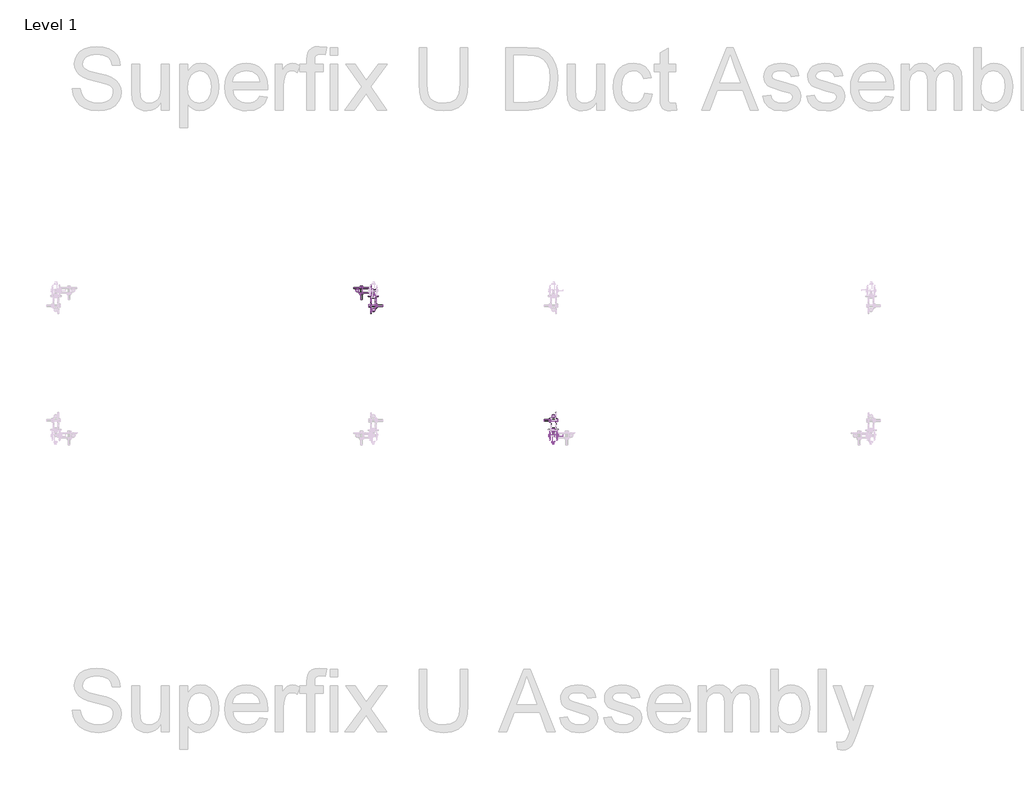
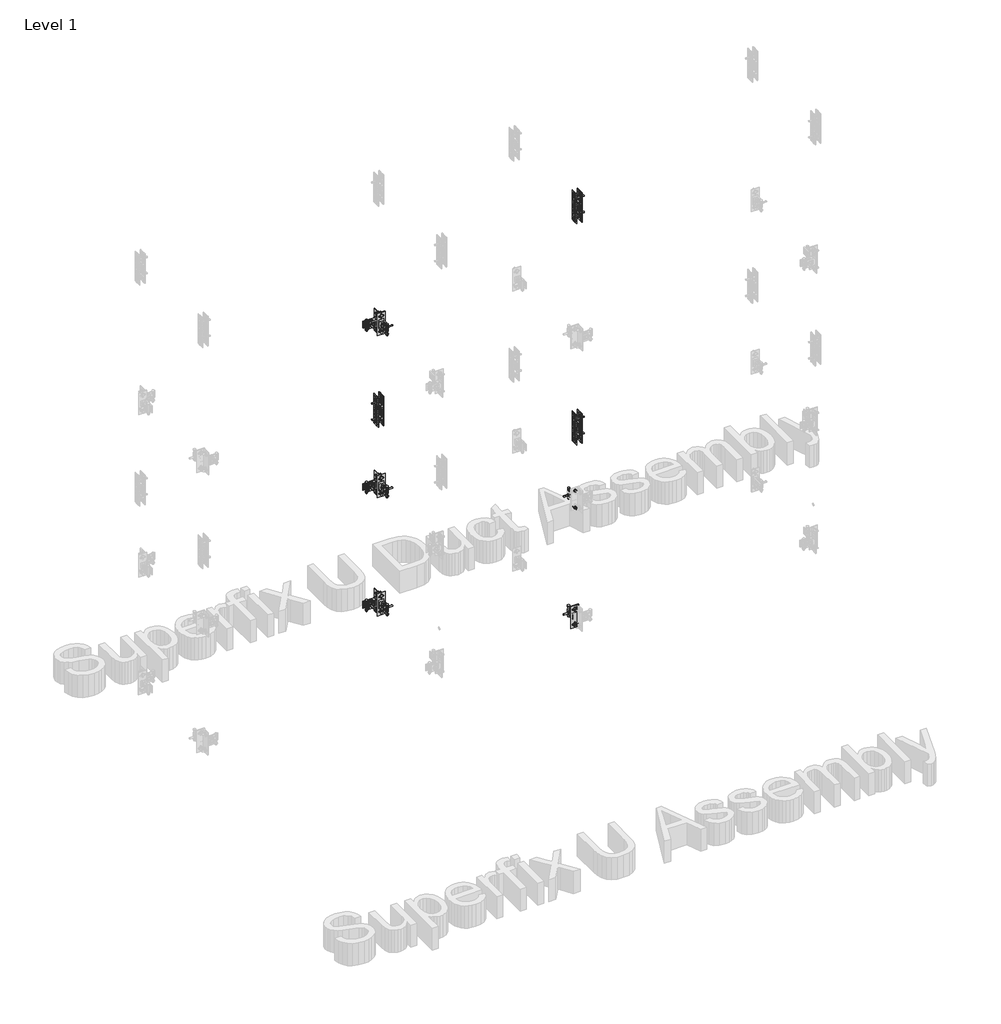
# One storey, part 11 of 32: 144 valves.
"""IFC4 building model written with IfcOpenShell, lengths in millimetres."""

from ifc_helpers import new_model, si_unit, origin, place, context, project, spatial, transform, mapped, element, save
from components import valve_fad8a5b8, hexagon_nut_galvanized_extra_m8_53389388, superfix_hexagon_screw_galvanized_f0d66714, superfix_hexagon_screw_galvanized_68d17cb7, superfix_hexagon_screw_galvanized_e39b877e, superfix_hexagon_screw_galvanized_3ef5af78, superfix_hexagon_screw_galvanized_3d7df342, superfix_strap_981cfdac, superfix_u_658711f6, superfix_u_31397e19, superfix_u_bracket_h_0b8578fe

model = new_model("IFC4")

# Units and contexts
model_context = context("Model", 3, world=origin())
ifc_project = project(units=[si_unit("LENGTHUNIT", "METRE", prefix="MILLI")], contexts=[model_context])

# Site, building, storey
site = spatial("IfcSite", under=ifc_project)
building = spatial("IfcBuilding", under=site)
storey = spatial("IfcBuildingStorey", under=building, Name="Level 1", Elevation=0.0)

# Valves
placement = place(None, origin())
valve_shape = valve_fad8a5b8(model_context)
element("IfcValve", 1, ObjectType="Superfix Flat Washer : Superfix Flat Washer M8x15x1.5", at=placement, inside=storey, context=model_context, shape_type="MappedRepresentation", body=[
    mapped(valve_shape, transform((-21166.450626, 29465.46055, 1500.0), x_axis=(1.0, 0.0, 0.0), y_axis=(0.0, 0.0, 1.0), z_axis=(0.0, -1.0, 0.0))),
])
element("IfcValve", 2, ObjectType="Superfix Flat Washer : Superfix Flat Washer M8x15x1.5", at=placement, inside=storey, context=model_context, shape_type="MappedRepresentation", body=[
    mapped(valve_shape, transform((-21115.450626, 29477.96055, 1558.0), x_axis=(0.0, 0.0, 1.0), y_axis=(0.0, 1.0, 0.0), z_axis=(-1.0, 0.0, 0.0))),
])
element("IfcValve", 3, ObjectType="Superfix Flat Washer : Superfix Flat Washer M8x15x1.5", at=placement, inside=storey, context=model_context, shape_type="MappedRepresentation", body=[
    mapped(valve_shape, transform((-21115.450626, 29477.96055, 1442.0), x_axis=(0.0, 0.0, 1.0), y_axis=(0.0, 1.0, 0.0), z_axis=(-1.0, 0.0, 0.0))),
])
element("IfcValve", 4, ObjectType="Superfix Flat Washer : Superfix Flat Washer M8x15x1.5", at=placement, inside=storey, context=model_context, shape_type="MappedRepresentation", body=[
    mapped(valve_shape, transform((-21186.450626, 29477.96055, 1471.5), x_axis=(1.0, 0.0, 0.0), y_axis=(0.0, -1.0, 0.0), z_axis=(0.0, 0.0, -1.0))),
])
element("IfcValve", 5, ObjectType="Superfix Flat Washer : Superfix Flat Washer M8x15x1.5", at=placement, inside=storey, context=model_context, shape_type="MappedRepresentation", body=[
    mapped(valve_shape, transform((-21166.450626, 29465.46055, 700.0), x_axis=(1.0, 0.0, 0.0), y_axis=(0.0, 0.0, 1.0), z_axis=(0.0, -1.0, 0.0))),
])
element("IfcValve", 6, ObjectType="Superfix Flat Washer : Superfix Flat Washer M8x15x1.5", at=placement, inside=storey, context=model_context, shape_type="MappedRepresentation", body=[
    mapped(valve_shape, transform((-21115.450626, 29477.96055, 758.0), x_axis=(0.0, 0.0, 1.0), y_axis=(0.0, 1.0, 0.0), z_axis=(-1.0, 0.0, 0.0))),
])
element("IfcValve", 7, ObjectType="Superfix Flat Washer : Superfix Flat Washer M8x15x1.5", at=placement, inside=storey, context=model_context, shape_type="MappedRepresentation", body=[
    mapped(valve_shape, transform((-21115.450626, 29477.96055, 642.0), x_axis=(0.0, 0.0, 1.0), y_axis=(0.0, 1.0, 0.0), z_axis=(-1.0, 0.0, 0.0))),
])
element("IfcValve", 8, ObjectType="Superfix Flat Washer : Superfix Flat Washer M8x15x1.5", at=placement, inside=storey, context=model_context, shape_type="MappedRepresentation", body=[
    mapped(valve_shape, transform((-21186.450626, 29477.96055, 671.5), x_axis=(1.0, 0.0, 0.0), y_axis=(0.0, -1.0, 0.0), z_axis=(0.0, 0.0, -1.0))),
])
element("IfcValve", 9, ObjectType="Superfix Flat Washer : Superfix Flat Washer M8x15x1.5", at=placement, inside=storey, context=model_context, shape_type="MappedRepresentation", body=[
    mapped(valve_shape, transform((-21166.450626, 29465.46055, 2600.0), x_axis=(1.0, 0.0, 0.0), y_axis=(0.0, 0.0, 1.0), z_axis=(0.0, -1.0, 0.0))),
])
element("IfcValve", 10, ObjectType="Superfix Flat Washer : Superfix Flat Washer M8x15x1.5", at=placement, inside=storey, context=model_context, shape_type="MappedRepresentation", body=[
    mapped(valve_shape, transform((-21115.450626, 29477.96055, 2658.0), x_axis=(0.0, 0.0, 1.0), y_axis=(0.0, 1.0, 0.0), z_axis=(-1.0, 0.0, 0.0))),
])
element("IfcValve", 11, ObjectType="Superfix Flat Washer : Superfix Flat Washer M8x15x1.5", at=placement, inside=storey, context=model_context, shape_type="MappedRepresentation", body=[
    mapped(valve_shape, transform((-21115.450626, 29477.96055, 2542.0), x_axis=(0.0, 0.0, 1.0), y_axis=(0.0, 1.0, 0.0), z_axis=(-1.0, 0.0, 0.0))),
])
element("IfcValve", 12, ObjectType="Superfix Flat Washer : Superfix Flat Washer M8x15x1.5", at=placement, inside=storey, context=model_context, shape_type="MappedRepresentation", body=[
    mapped(valve_shape, transform((-21186.450626, 29477.96055, 2571.5), x_axis=(1.0, 0.0, 0.0), y_axis=(0.0, -1.0, 0.0), z_axis=(0.0, 0.0, -1.0))),
])
element("IfcValve", 13, ObjectType="Superfix Flat Washer : Superfix Flat Washer M8x15x1.5", at=placement, inside=storey, context=model_context, shape_type="MappedRepresentation", body=[
    mapped(valve_shape, transform((-21095.950626, 29404.96055, 2600.0), x_axis=(0.0, 1.0, 0.0), y_axis=(0.0, 0.0, 1.0), z_axis=(1.0, 0.0, 0.0))),
])
element("IfcValve", 14, ObjectType="Superfix Flat Washer : Superfix Flat Washer M8x15x1.5", at=placement, inside=storey, context=model_context, shape_type="MappedRepresentation", body=[
    mapped(valve_shape, transform((-21108.450626, 29455.96055, 2658.0), x_axis=(0.0, 0.0, 1.0), y_axis=(-1.0, 0.0, 0.0), z_axis=(0.0, -1.0, 0.0))),
])
element("IfcValve", 15, ObjectType="Superfix Flat Washer : Superfix Flat Washer M8x15x1.5", at=placement, inside=storey, context=model_context, shape_type="MappedRepresentation", body=[
    mapped(valve_shape, transform((-21108.450626, 29455.96055, 2542.0), x_axis=(0.0, 0.0, 1.0), y_axis=(-1.0, 0.0, 0.0), z_axis=(0.0, -1.0, 0.0))),
])
element("IfcValve", 16, ObjectType="Superfix Flat Washer : Superfix Flat Washer M8x15x1.5", at=placement, inside=storey, context=model_context, shape_type="MappedRepresentation", body=[
    mapped(valve_shape, transform((-21108.450626, 29384.96055, 2571.5), x_axis=(0.0, 1.0, 0.0), y_axis=(1.0, 0.0, 0.0), z_axis=(0.0, 0.0, -1.0))),
])
element("IfcValve", 17, ObjectType="Superfix Flat Washer : Superfix Flat Washer M8x15x1.5", at=placement, inside=storey, context=model_context, shape_type="MappedRepresentation", body=[
    mapped(valve_shape, transform((-21095.950626, 29404.96055, 1500.0), x_axis=(0.0, 1.0, 0.0), y_axis=(0.0, 0.0, 1.0), z_axis=(1.0, 0.0, 0.0))),
])
element("IfcValve", 18, ObjectType="Superfix Flat Washer : Superfix Flat Washer M8x15x1.5", at=placement, inside=storey, context=model_context, shape_type="MappedRepresentation", body=[
    mapped(valve_shape, transform((-21108.450626, 29455.96055, 1558.0), x_axis=(0.0, 0.0, 1.0), y_axis=(-1.0, 0.0, 0.0), z_axis=(0.0, -1.0, 0.0))),
])
element("IfcValve", 19, ObjectType="Superfix Flat Washer : Superfix Flat Washer M8x15x1.5", at=placement, inside=storey, context=model_context, shape_type="MappedRepresentation", body=[
    mapped(valve_shape, transform((-21108.450626, 29455.96055, 1442.0), x_axis=(0.0, 0.0, 1.0), y_axis=(-1.0, 0.0, 0.0), z_axis=(0.0, -1.0, 0.0))),
])
element("IfcValve", 20, ObjectType="Superfix Flat Washer : Superfix Flat Washer M8x15x1.5", at=placement, inside=storey, context=model_context, shape_type="MappedRepresentation", body=[
    mapped(valve_shape, transform((-21108.450626, 29384.96055, 1471.5), x_axis=(0.0, 1.0, 0.0), y_axis=(1.0, 0.0, 0.0), z_axis=(0.0, 0.0, -1.0))),
])
element("IfcValve", 21, ObjectType="Superfix Flat Washer : Superfix Flat Washer M8x15x1.5", at=placement, inside=storey, context=model_context, shape_type="MappedRepresentation", body=[
    mapped(valve_shape, transform((-21095.950626, 29403.96055, 700.0), x_axis=(0.0, 1.0, 0.0), y_axis=(0.0, 0.0, 1.0), z_axis=(1.0, 0.0, 0.0))),
])
element("IfcValve", 22, ObjectType="Superfix Flat Washer : Superfix Flat Washer M8x15x1.5", at=placement, inside=storey, context=model_context, shape_type="MappedRepresentation", body=[
    mapped(valve_shape, transform((-21108.450626, 29454.96055, 758.0), x_axis=(0.0, 0.0, 1.0), y_axis=(-1.0, 0.0, 0.0), z_axis=(0.0, -1.0, 0.0))),
])
element("IfcValve", 23, ObjectType="Superfix Flat Washer : Superfix Flat Washer M8x15x1.5", at=placement, inside=storey, context=model_context, shape_type="MappedRepresentation", body=[
    mapped(valve_shape, transform((-21108.450626, 29454.96055, 642.0), x_axis=(0.0, 0.0, 1.0), y_axis=(-1.0, 0.0, 0.0), z_axis=(0.0, -1.0, 0.0))),
])
element("IfcValve", 24, ObjectType="Superfix Flat Washer : Superfix Flat Washer M8x15x1.5", at=placement, inside=storey, context=model_context, shape_type="MappedRepresentation", body=[
    mapped(valve_shape, transform((-21108.450626, 29383.96055, 671.5), x_axis=(0.0, 1.0, 0.0), y_axis=(1.0, 0.0, 0.0), z_axis=(0.0, 0.0, -1.0))),
])
element("IfcValve", 25, ObjectType="Superfix Flat Washer : Superfix Flat Washer M8x15x1.5", at=placement, inside=storey, context=model_context, shape_type="MappedRepresentation", body=[
    mapped(valve_shape, transform((-20252.950626, 28850.96055, 1500.0), x_axis=(0.0, -1.0, 0.0), y_axis=(0.0, 0.0, 1.0), z_axis=(-1.0, 0.0, 0.0))),
])
element("IfcValve", 26, ObjectType="Superfix Flat Washer : Superfix Flat Washer M8x15x1.5", at=placement, inside=storey, context=model_context, shape_type="MappedRepresentation", body=[
    mapped(valve_shape, transform((-20240.450626, 28799.96055, 1558.0), x_axis=(0.0, 0.0, 1.0), y_axis=(1.0, 0.0, 0.0), z_axis=(0.0, 1.0, 0.0))),
])
element("IfcValve", 27, ObjectType="Superfix Flat Washer : Superfix Flat Washer M8x15x1.5", at=placement, inside=storey, context=model_context, shape_type="MappedRepresentation", body=[
    mapped(valve_shape, transform((-20240.450626, 28799.96055, 1442.0), x_axis=(0.0, 0.0, 1.0), y_axis=(1.0, 0.0, 0.0), z_axis=(0.0, 1.0, 0.0))),
])
element("IfcValve", 28, ObjectType="Superfix Flat Washer : Superfix Flat Washer M8x15x1.5", at=placement, inside=storey, context=model_context, shape_type="MappedRepresentation", body=[
    mapped(valve_shape, transform((-20240.450626, 28870.96055, 1471.5), x_axis=(0.0, -1.0, 0.0), y_axis=(-1.0, 0.0, 0.0), z_axis=(0.0, 0.0, -1.0))),
])
element("IfcValve", 29, ObjectType="Superfix Flat Washer : Superfix Flat Washer M8x15x1.5", at=placement, inside=storey, context=model_context, shape_type="MappedRepresentation", body=[
    mapped(valve_shape, transform((-20252.950626, 28851.96055, 700.0), x_axis=(0.0, -1.0, 0.0), y_axis=(0.0, 0.0, 1.0), z_axis=(-1.0, 0.0, 0.0))),
])
element("IfcValve", 30, ObjectType="Superfix Flat Washer : Superfix Flat Washer M8x15x1.5", at=placement, inside=storey, context=model_context, shape_type="MappedRepresentation", body=[
    mapped(valve_shape, transform((-20240.450626, 28800.96055, 758.0), x_axis=(0.0, 0.0, 1.0), y_axis=(1.0, 0.0, 0.0), z_axis=(0.0, 1.0, 0.0))),
])
element("IfcValve", 31, ObjectType="Superfix Flat Washer : Superfix Flat Washer M8x15x1.5", at=placement, inside=storey, context=model_context, shape_type="MappedRepresentation", body=[
    mapped(valve_shape, transform((-20240.450626, 28800.96055, 642.0), x_axis=(0.0, 0.0, 1.0), y_axis=(1.0, 0.0, 0.0), z_axis=(0.0, 1.0, 0.0))),
])
element("IfcValve", 32, ObjectType="Superfix Flat Washer : Superfix Flat Washer M8x15x1.5", at=placement, inside=storey, context=model_context, shape_type="MappedRepresentation", body=[
    mapped(valve_shape, transform((-20240.450626, 28871.96055, 671.5), x_axis=(0.0, -1.0, 0.0), y_axis=(-1.0, 0.0, 0.0), z_axis=(0.0, 0.0, -1.0))),
])
element("IfcValve", 33, ObjectType="Superfix Flat Washer : Superfix Flat Washer M8x15x1.5", at=placement, inside=storey, context=model_context, shape_type="MappedRepresentation", body=[
    mapped(valve_shape, transform((-21126.050626, 29477.96055, 2055.0), x_axis=(0.0, 1.0, 0.0), y_axis=(0.0, 0.0, 1.0), z_axis=(1.0, 0.0, 0.0))),
])
element("IfcValve", 34, ObjectType="Superfix Flat Washer : Superfix Flat Washer M8x15x1.5", at=placement, inside=storey, context=model_context, shape_type="MappedRepresentation", body=[
    mapped(valve_shape, transform((-21126.050626, 29477.96055, 1945.0), x_axis=(0.0, 1.0, 0.0), y_axis=(0.0, 0.0, 1.0), z_axis=(1.0, 0.0, 0.0))),
])
element("IfcValve", 35, ObjectType="Superfix Flat Washer : Superfix Flat Washer M8x15x1.5", at=placement, inside=storey, context=model_context, shape_type="MappedRepresentation", body=[
    mapped(valve_shape, transform((-20224.450626, 28777.96055, 1945.0), x_axis=(0.0, 1.0, 0.0), y_axis=(0.0, 0.0, 1.0), z_axis=(1.0, 0.0, 0.0))),
])
element("IfcValve", 36, ObjectType="Superfix Flat Washer : Superfix Flat Washer M8x15x1.5", at=placement, inside=storey, context=model_context, shape_type="MappedRepresentation", body=[
    mapped(valve_shape, transform((-20224.450626, 28777.96055, 2055.0), x_axis=(0.0, 1.0, 0.0), y_axis=(0.0, 0.0, 1.0), z_axis=(1.0, 0.0, 0.0))),
])
element("IfcValve", 37, ObjectType="Superfix Flat Washer : Superfix Flat Washer M8x15x1.5", at=placement, inside=storey, context=model_context, shape_type="MappedRepresentation", body=[
    mapped(valve_shape, transform((-20240.450626, 28749.46055, 2040.0), x_axis=(1.0, 0.0, 0.0), y_axis=(0.0, 0.0, 1.0), z_axis=(0.0, -1.0, 0.0))),
])
element("IfcValve", 38, ObjectType="Superfix Flat Washer : Superfix Flat Washer M8x15x1.5", at=placement, inside=storey, context=model_context, shape_type="MappedRepresentation", body=[
    mapped(valve_shape, transform((-20240.450626, 28749.46055, 1960.0), x_axis=(1.0, 0.0, 0.0), y_axis=(0.0, 0.0, 1.0), z_axis=(0.0, -1.0, 0.0))),
])
element("IfcValve", 39, ObjectType="Superfix Flat Washer : Superfix Flat Washer M8x15x1.5", at=placement, inside=storey, context=model_context, shape_type="MappedRepresentation", body=[
    mapped(valve_shape, transform((-20224.450626, 28777.96055, 3445.0), x_axis=(0.0, 1.0, 0.0), y_axis=(0.0, 0.0, 1.0), z_axis=(1.0, 0.0, 0.0))),
])
element("IfcValve", 40, ObjectType="Superfix Flat Washer : Superfix Flat Washer M8x15x1.5", at=placement, inside=storey, context=model_context, shape_type="MappedRepresentation", body=[
    mapped(valve_shape, transform((-20224.450626, 28777.96055, 3555.0), x_axis=(0.0, 1.0, 0.0), y_axis=(0.0, 0.0, 1.0), z_axis=(1.0, 0.0, 0.0))),
])
element("IfcValve", 41, ObjectType="Superfix Flat Washer : Superfix Flat Washer M8x15x1.5", at=placement, inside=storey, context=model_context, shape_type="MappedRepresentation", body=[
    mapped(valve_shape, transform((-20240.450626, 28749.46055, 3540.0), x_axis=(1.0, 0.0, 0.0), y_axis=(0.0, 0.0, 1.0), z_axis=(0.0, -1.0, 0.0))),
])
element("IfcValve", 42, ObjectType="Superfix Flat Washer : Superfix Flat Washer M8x15x1.5", at=placement, inside=storey, context=model_context, shape_type="MappedRepresentation", body=[
    mapped(valve_shape, transform((-20240.450626, 28749.46055, 3460.0), x_axis=(1.0, 0.0, 0.0), y_axis=(0.0, 0.0, 1.0), z_axis=(0.0, -1.0, 0.0))),
])
hexagon_nut_galvanized_extra_m8_shape = hexagon_nut_galvanized_extra_m8_53389388(model_context)
element("IfcValve", 43, ObjectType="Superfix Hexagon Nut Galvanized : Hexagon Nut Galvanized M8", at=placement, inside=storey, context=model_context, shape_type="MappedRepresentation", body=[
    mapped(hexagon_nut_galvanized_extra_m8_shape, transform((-21166.450626, 29465.46055, 1500.0), x_axis=(1.0, 0.0, 0.0), y_axis=(0.0, 0.0, 1.0), z_axis=(0.0, -1.0, 0.0))),
])
element("IfcValve", 44, ObjectType="Superfix Hexagon Nut Galvanized : Hexagon Nut Galvanized M8", at=placement, inside=storey, context=model_context, shape_type="MappedRepresentation", body=[
    mapped(hexagon_nut_galvanized_extra_m8_shape, transform((-21186.450626, 29477.96055, 1465.0), x_axis=(0.0, 1.0, 0.0), y_axis=(-1.0, 0.0, 0.0), z_axis=(0.0, 0.0, 1.0))),
])
element("IfcValve", 45, ObjectType="Superfix Hexagon Nut Galvanized : Hexagon Nut Galvanized M8", at=placement, inside=storey, context=model_context, shape_type="MappedRepresentation", body=[
    mapped(hexagon_nut_galvanized_extra_m8_shape, transform((-21108.950626, 29477.96055, 1442.0), x_axis=(0.0, 0.0, 1.0), y_axis=(0.0, 1.0, 0.0), z_axis=(-1.0, 0.0, 0.0))),
])
element("IfcValve", 46, ObjectType="Superfix Hexagon Nut Galvanized : Hexagon Nut Galvanized M8", at=placement, inside=storey, context=model_context, shape_type="MappedRepresentation", body=[
    mapped(hexagon_nut_galvanized_extra_m8_shape, transform((-21108.950626, 29477.96055, 1558.0), x_axis=(0.0, 0.0, 1.0), y_axis=(0.0, 1.0, 0.0), z_axis=(-1.0, 0.0, 0.0))),
])
element("IfcValve", 47, ObjectType="Superfix Hexagon Nut Galvanized : Hexagon Nut Galvanized M8", at=placement, inside=storey, context=model_context, shape_type="MappedRepresentation", body=[
    mapped(hexagon_nut_galvanized_extra_m8_shape, transform((-21166.450626, 29465.46055, 700.0), x_axis=(1.0, 0.0, 0.0), y_axis=(0.0, 0.0, 1.0), z_axis=(0.0, -1.0, 0.0))),
])
element("IfcValve", 48, ObjectType="Superfix Hexagon Nut Galvanized : Hexagon Nut Galvanized M8", at=placement, inside=storey, context=model_context, shape_type="MappedRepresentation", body=[
    mapped(hexagon_nut_galvanized_extra_m8_shape, transform((-21186.450626, 29477.96055, 665.0), x_axis=(0.0, 1.0, 0.0), y_axis=(-1.0, 0.0, 0.0), z_axis=(0.0, 0.0, 1.0))),
])
element("IfcValve", 49, ObjectType="Superfix Hexagon Nut Galvanized : Hexagon Nut Galvanized M8", at=placement, inside=storey, context=model_context, shape_type="MappedRepresentation", body=[
    mapped(hexagon_nut_galvanized_extra_m8_shape, transform((-21108.950626, 29477.96055, 642.0), x_axis=(0.0, 0.0, 1.0), y_axis=(0.0, 1.0, 0.0), z_axis=(-1.0, 0.0, 0.0))),
])
element("IfcValve", 50, ObjectType="Superfix Hexagon Nut Galvanized : Hexagon Nut Galvanized M8", at=placement, inside=storey, context=model_context, shape_type="MappedRepresentation", body=[
    mapped(hexagon_nut_galvanized_extra_m8_shape, transform((-21108.950626, 29477.96055, 758.0), x_axis=(0.0, 0.0, 1.0), y_axis=(0.0, 1.0, 0.0), z_axis=(-1.0, 0.0, 0.0))),
])
element("IfcValve", 51, ObjectType="Superfix Hexagon Nut Galvanized : Hexagon Nut Galvanized M8", at=placement, inside=storey, context=model_context, shape_type="MappedRepresentation", body=[
    mapped(hexagon_nut_galvanized_extra_m8_shape, transform((-21166.450626, 29465.46055, 2600.0), x_axis=(1.0, 0.0, 0.0), y_axis=(0.0, 0.0, 1.0), z_axis=(0.0, -1.0, 0.0))),
])
element("IfcValve", 52, ObjectType="Superfix Hexagon Nut Galvanized : Hexagon Nut Galvanized M8", at=placement, inside=storey, context=model_context, shape_type="MappedRepresentation", body=[
    mapped(hexagon_nut_galvanized_extra_m8_shape, transform((-21186.450626, 29477.96055, 2565.0), x_axis=(0.0, 1.0, 0.0), y_axis=(-1.0, 0.0, 0.0), z_axis=(0.0, 0.0, 1.0))),
])
element("IfcValve", 53, ObjectType="Superfix Hexagon Nut Galvanized : Hexagon Nut Galvanized M8", at=placement, inside=storey, context=model_context, shape_type="MappedRepresentation", body=[
    mapped(hexagon_nut_galvanized_extra_m8_shape, transform((-21108.950626, 29477.96055, 2542.0), x_axis=(0.0, 0.0, 1.0), y_axis=(0.0, 1.0, 0.0), z_axis=(-1.0, 0.0, 0.0))),
])
element("IfcValve", 54, ObjectType="Superfix Hexagon Nut Galvanized : Hexagon Nut Galvanized M8", at=placement, inside=storey, context=model_context, shape_type="MappedRepresentation", body=[
    mapped(hexagon_nut_galvanized_extra_m8_shape, transform((-21108.950626, 29477.96055, 2658.0), x_axis=(0.0, 0.0, 1.0), y_axis=(0.0, 1.0, 0.0), z_axis=(-1.0, 0.0, 0.0))),
])
element("IfcValve", 55, ObjectType="Superfix Hexagon Nut Galvanized : Hexagon Nut Galvanized M8", at=placement, inside=storey, context=model_context, shape_type="MappedRepresentation", body=[
    mapped(hexagon_nut_galvanized_extra_m8_shape, transform((-21095.950626, 29404.96055, 2600.0), x_axis=(0.0, 1.0, 0.0), y_axis=(0.0, 0.0, 1.0), z_axis=(1.0, 0.0, 0.0))),
])
element("IfcValve", 56, ObjectType="Superfix Hexagon Nut Galvanized : Hexagon Nut Galvanized M8", at=placement, inside=storey, context=model_context, shape_type="MappedRepresentation", body=[
    mapped(hexagon_nut_galvanized_extra_m8_shape, transform((-21108.450626, 29384.96055, 2565.0), x_axis=(-1.0, 0.0, 0.0), y_axis=(0.0, -1.0, 0.0), z_axis=(0.0, 0.0, 1.0))),
])
element("IfcValve", 57, ObjectType="Superfix Hexagon Nut Galvanized : Hexagon Nut Galvanized M8", at=placement, inside=storey, context=model_context, shape_type="MappedRepresentation", body=[
    mapped(hexagon_nut_galvanized_extra_m8_shape, transform((-21108.450626, 29462.46055, 2542.0), x_axis=(0.0, 0.0, 1.0), y_axis=(-1.0, 0.0, 0.0), z_axis=(0.0, -1.0, 0.0))),
])
element("IfcValve", 58, ObjectType="Superfix Hexagon Nut Galvanized : Hexagon Nut Galvanized M8", at=placement, inside=storey, context=model_context, shape_type="MappedRepresentation", body=[
    mapped(hexagon_nut_galvanized_extra_m8_shape, transform((-21108.450626, 29462.46055, 2658.0), x_axis=(0.0, 0.0, 1.0), y_axis=(-1.0, 0.0, 0.0), z_axis=(0.0, -1.0, 0.0))),
])
element("IfcValve", 59, ObjectType="Superfix Hexagon Nut Galvanized : Hexagon Nut Galvanized M8", at=placement, inside=storey, context=model_context, shape_type="MappedRepresentation", body=[
    mapped(hexagon_nut_galvanized_extra_m8_shape, transform((-21095.950626, 29404.96055, 1500.0), x_axis=(0.0, 1.0, 0.0), y_axis=(0.0, 0.0, 1.0), z_axis=(1.0, 0.0, 0.0))),
])
element("IfcValve", 60, ObjectType="Superfix Hexagon Nut Galvanized : Hexagon Nut Galvanized M8", at=placement, inside=storey, context=model_context, shape_type="MappedRepresentation", body=[
    mapped(hexagon_nut_galvanized_extra_m8_shape, transform((-21108.450626, 29384.96055, 1465.0), x_axis=(-1.0, 0.0, 0.0), y_axis=(0.0, -1.0, 0.0), z_axis=(0.0, 0.0, 1.0))),
])
element("IfcValve", 61, ObjectType="Superfix Hexagon Nut Galvanized : Hexagon Nut Galvanized M8", at=placement, inside=storey, context=model_context, shape_type="MappedRepresentation", body=[
    mapped(hexagon_nut_galvanized_extra_m8_shape, transform((-21108.450626, 29462.46055, 1442.0), x_axis=(0.0, 0.0, 1.0), y_axis=(-1.0, 0.0, 0.0), z_axis=(0.0, -1.0, 0.0))),
])
element("IfcValve", 62, ObjectType="Superfix Hexagon Nut Galvanized : Hexagon Nut Galvanized M8", at=placement, inside=storey, context=model_context, shape_type="MappedRepresentation", body=[
    mapped(hexagon_nut_galvanized_extra_m8_shape, transform((-21108.450626, 29462.46055, 1558.0), x_axis=(0.0, 0.0, 1.0), y_axis=(-1.0, 0.0, 0.0), z_axis=(0.0, -1.0, 0.0))),
])
element("IfcValve", 63, ObjectType="Superfix Hexagon Nut Galvanized : Hexagon Nut Galvanized M8", at=placement, inside=storey, context=model_context, shape_type="MappedRepresentation", body=[
    mapped(hexagon_nut_galvanized_extra_m8_shape, transform((-21095.950626, 29403.96055, 700.0), x_axis=(0.0, 1.0, 0.0), y_axis=(0.0, 0.0, 1.0), z_axis=(1.0, 0.0, 0.0))),
])
element("IfcValve", 64, ObjectType="Superfix Hexagon Nut Galvanized : Hexagon Nut Galvanized M8", at=placement, inside=storey, context=model_context, shape_type="MappedRepresentation", body=[
    mapped(hexagon_nut_galvanized_extra_m8_shape, transform((-21108.450626, 29383.96055, 665.0), x_axis=(-1.0, 0.0, 0.0), y_axis=(0.0, -1.0, 0.0), z_axis=(0.0, 0.0, 1.0))),
])
element("IfcValve", 65, ObjectType="Superfix Hexagon Nut Galvanized : Hexagon Nut Galvanized M8", at=placement, inside=storey, context=model_context, shape_type="MappedRepresentation", body=[
    mapped(hexagon_nut_galvanized_extra_m8_shape, transform((-21108.450626, 29461.46055, 642.0), x_axis=(0.0, 0.0, 1.0), y_axis=(-1.0, 0.0, 0.0), z_axis=(0.0, -1.0, 0.0))),
])
element("IfcValve", 66, ObjectType="Superfix Hexagon Nut Galvanized : Hexagon Nut Galvanized M8", at=placement, inside=storey, context=model_context, shape_type="MappedRepresentation", body=[
    mapped(hexagon_nut_galvanized_extra_m8_shape, transform((-21108.450626, 29461.46055, 758.0), x_axis=(0.0, 0.0, 1.0), y_axis=(-1.0, 0.0, 0.0), z_axis=(0.0, -1.0, 0.0))),
])
element("IfcValve", 67, ObjectType="Superfix Hexagon Nut Galvanized : Hexagon Nut Galvanized M8", at=placement, inside=storey, context=model_context, shape_type="MappedRepresentation", body=[
    mapped(hexagon_nut_galvanized_extra_m8_shape, transform((-20252.950626, 28850.96055, 1500.0), x_axis=(0.0, -1.0, 0.0), y_axis=(0.0, 0.0, 1.0), z_axis=(-1.0, 0.0, 0.0))),
])
element("IfcValve", 68, ObjectType="Superfix Hexagon Nut Galvanized : Hexagon Nut Galvanized M8", at=placement, inside=storey, context=model_context, shape_type="MappedRepresentation", body=[
    mapped(hexagon_nut_galvanized_extra_m8_shape, transform((-20240.450626, 28870.96055, 1465.0), x_axis=(1.0, 0.0, 0.0), y_axis=(0.0, 1.0, 0.0), z_axis=(0.0, 0.0, 1.0))),
])
element("IfcValve", 69, ObjectType="Superfix Hexagon Nut Galvanized : Hexagon Nut Galvanized M8", at=placement, inside=storey, context=model_context, shape_type="MappedRepresentation", body=[
    mapped(hexagon_nut_galvanized_extra_m8_shape, transform((-20240.450626, 28793.46055, 1442.0), x_axis=(0.0, 0.0, 1.0), y_axis=(1.0, 0.0, 0.0), z_axis=(0.0, 1.0, 0.0))),
])
element("IfcValve", 70, ObjectType="Superfix Hexagon Nut Galvanized : Hexagon Nut Galvanized M8", at=placement, inside=storey, context=model_context, shape_type="MappedRepresentation", body=[
    mapped(hexagon_nut_galvanized_extra_m8_shape, transform((-20240.450626, 28793.46055, 1558.0), x_axis=(0.0, 0.0, 1.0), y_axis=(1.0, 0.0, 0.0), z_axis=(0.0, 1.0, 0.0))),
])
element("IfcValve", 71, ObjectType="Superfix Hexagon Nut Galvanized : Hexagon Nut Galvanized M8", at=placement, inside=storey, context=model_context, shape_type="MappedRepresentation", body=[
    mapped(hexagon_nut_galvanized_extra_m8_shape, transform((-20252.950626, 28851.96055, 700.0), x_axis=(0.0, -1.0, 0.0), y_axis=(0.0, 0.0, 1.0), z_axis=(-1.0, 0.0, 0.0))),
])
element("IfcValve", 72, ObjectType="Superfix Hexagon Nut Galvanized : Hexagon Nut Galvanized M8", at=placement, inside=storey, context=model_context, shape_type="MappedRepresentation", body=[
    mapped(hexagon_nut_galvanized_extra_m8_shape, transform((-20240.450626, 28871.96055, 665.0), x_axis=(1.0, 0.0, 0.0), y_axis=(0.0, 1.0, 0.0), z_axis=(0.0, 0.0, 1.0))),
])
element("IfcValve", 73, ObjectType="Superfix Hexagon Nut Galvanized : Hexagon Nut Galvanized M8", at=placement, inside=storey, context=model_context, shape_type="MappedRepresentation", body=[
    mapped(hexagon_nut_galvanized_extra_m8_shape, transform((-20240.450626, 28794.46055, 642.0), x_axis=(0.0, 0.0, 1.0), y_axis=(1.0, 0.0, 0.0), z_axis=(0.0, 1.0, 0.0))),
])
element("IfcValve", 74, ObjectType="Superfix Hexagon Nut Galvanized : Hexagon Nut Galvanized M8", at=placement, inside=storey, context=model_context, shape_type="MappedRepresentation", body=[
    mapped(hexagon_nut_galvanized_extra_m8_shape, transform((-20240.450626, 28794.46055, 758.0), x_axis=(0.0, 0.0, 1.0), y_axis=(1.0, 0.0, 0.0), z_axis=(0.0, 1.0, 0.0))),
])
element("IfcValve", 75, ObjectType="Superfix Hexagon Nut Galvanized : Hexagon Nut Galvanized M8", at=placement, inside=storey, context=model_context, shape_type="MappedRepresentation", body=[
    mapped(hexagon_nut_galvanized_extra_m8_shape, transform((-20224.450626, 28777.96055, 2055.0), x_axis=(0.0, 1.0, 0.0), y_axis=(0.0, 0.0, 1.0), z_axis=(1.0, 0.0, 0.0))),
])
element("IfcValve", 76, ObjectType="Superfix Hexagon Nut Galvanized : Hexagon Nut Galvanized M8", at=placement, inside=storey, context=model_context, shape_type="MappedRepresentation", body=[
    mapped(hexagon_nut_galvanized_extra_m8_shape, transform((-20224.450626, 28777.96055, 1945.0), x_axis=(0.0, 1.0, 0.0), y_axis=(0.0, 0.0, 1.0), z_axis=(1.0, 0.0, 0.0))),
])
element("IfcValve", 77, ObjectType="Superfix Hexagon Nut Galvanized : Hexagon Nut Galvanized M8", at=placement, inside=storey, context=model_context, shape_type="MappedRepresentation", body=[
    mapped(hexagon_nut_galvanized_extra_m8_shape, transform((-20240.450626, 28749.46055, 2040.0), x_axis=(1.0, 0.0, 0.0), y_axis=(0.0, 0.0, 1.0), z_axis=(0.0, -1.0, 0.0))),
])
element("IfcValve", 78, ObjectType="Superfix Hexagon Nut Galvanized : Hexagon Nut Galvanized M8", at=placement, inside=storey, context=model_context, shape_type="MappedRepresentation", body=[
    mapped(hexagon_nut_galvanized_extra_m8_shape, transform((-20240.450626, 28749.46055, 1960.0), x_axis=(1.0, 0.0, 0.0), y_axis=(0.0, 0.0, 1.0), z_axis=(0.0, -1.0, 0.0))),
])
element("IfcValve", 79, ObjectType="Superfix Hexagon Nut Galvanized : Hexagon Nut Galvanized M8", at=placement, inside=storey, context=model_context, shape_type="MappedRepresentation", body=[
    mapped(hexagon_nut_galvanized_extra_m8_shape, transform((-20224.450626, 28777.96055, 3555.0), x_axis=(0.0, 1.0, 0.0), y_axis=(0.0, 0.0, 1.0), z_axis=(1.0, 0.0, 0.0))),
])
element("IfcValve", 80, ObjectType="Superfix Hexagon Nut Galvanized : Hexagon Nut Galvanized M8", at=placement, inside=storey, context=model_context, shape_type="MappedRepresentation", body=[
    mapped(hexagon_nut_galvanized_extra_m8_shape, transform((-20224.450626, 28777.96055, 3445.0), x_axis=(0.0, 1.0, 0.0), y_axis=(0.0, 0.0, 1.0), z_axis=(1.0, 0.0, 0.0))),
])
element("IfcValve", 81, ObjectType="Superfix Hexagon Nut Galvanized : Hexagon Nut Galvanized M8", at=placement, inside=storey, context=model_context, shape_type="MappedRepresentation", body=[
    mapped(hexagon_nut_galvanized_extra_m8_shape, transform((-20240.450626, 28749.46055, 3540.0), x_axis=(1.0, 0.0, 0.0), y_axis=(0.0, 0.0, 1.0), z_axis=(0.0, -1.0, 0.0))),
])
element("IfcValve", 82, ObjectType="Superfix Hexagon Nut Galvanized : Hexagon Nut Galvanized M8", at=placement, inside=storey, context=model_context, shape_type="MappedRepresentation", body=[
    mapped(hexagon_nut_galvanized_extra_m8_shape, transform((-20240.450626, 28749.46055, 3460.0), x_axis=(1.0, 0.0, 0.0), y_axis=(0.0, 0.0, 1.0), z_axis=(0.0, -1.0, 0.0))),
])
superfix_hexagon_screw_galvanized_shape = superfix_hexagon_screw_galvanized_f0d66714(model_context)
element("IfcValve", 83, ObjectType="SuperFix Hexagon Screw Galvanized : Hexagon Screw Galvanized M8 × 60", at=placement, inside=storey, context=model_context, shape_type="MappedRepresentation", body=[
    mapped(superfix_hexagon_screw_galvanized_shape, transform((-21166.450626, 29493.46055, 1500.0), x_axis=(0.0, 0.0, 1.0), y_axis=(1.0, 0.0, 0.0), z_axis=(0.0, 1.0, 0.0))),
])
element("IfcValve", 84, ObjectType="SuperFix Hexagon Screw Galvanized : Hexagon Screw Galvanized M8 × 60", at=placement, inside=storey, context=model_context, shape_type="MappedRepresentation", body=[
    mapped(superfix_hexagon_screw_galvanized_shape, transform((-21166.450626, 29493.46055, 700.0), x_axis=(0.0, 0.0, 1.0), y_axis=(1.0, 0.0, 0.0), z_axis=(0.0, 1.0, 0.0))),
])
element("IfcValve", 85, ObjectType="SuperFix Hexagon Screw Galvanized : Hexagon Screw Galvanized M8 × 60", at=placement, inside=storey, context=model_context, shape_type="MappedRepresentation", body=[
    mapped(superfix_hexagon_screw_galvanized_shape, transform((-21166.450626, 29493.46055, 2600.0), x_axis=(0.0, 0.0, 1.0), y_axis=(1.0, 0.0, 0.0), z_axis=(0.0, 1.0, 0.0))),
])
element("IfcValve", 86, ObjectType="SuperFix Hexagon Screw Galvanized : Hexagon Screw Galvanized M8 × 60", at=placement, inside=storey, context=model_context, shape_type="MappedRepresentation", body=[
    mapped(superfix_hexagon_screw_galvanized_shape, transform((-21123.950626, 29404.96055, 2600.0), x_axis=(0.0, 0.0, 1.0), y_axis=(0.0, 1.0, 0.0), z_axis=(-1.0, 0.0, 0.0))),
])
element("IfcValve", 87, ObjectType="SuperFix Hexagon Screw Galvanized : Hexagon Screw Galvanized M8 × 60", at=placement, inside=storey, context=model_context, shape_type="MappedRepresentation", body=[
    mapped(superfix_hexagon_screw_galvanized_shape, transform((-21123.950626, 29404.96055, 1500.0), x_axis=(0.0, 0.0, 1.0), y_axis=(0.0, 1.0, 0.0), z_axis=(-1.0, 0.0, 0.0))),
])
element("IfcValve", 88, ObjectType="SuperFix Hexagon Screw Galvanized : Hexagon Screw Galvanized M8 × 60", at=placement, inside=storey, context=model_context, shape_type="MappedRepresentation", body=[
    mapped(superfix_hexagon_screw_galvanized_shape, transform((-21123.950626, 29403.96055, 700.0), x_axis=(0.0, 0.0, 1.0), y_axis=(0.0, 1.0, 0.0), z_axis=(-1.0, 0.0, 0.0))),
])
element("IfcValve", 89, ObjectType="SuperFix Hexagon Screw Galvanized : Hexagon Screw Galvanized M8 × 60", at=placement, inside=storey, context=model_context, shape_type="MappedRepresentation", body=[
    mapped(superfix_hexagon_screw_galvanized_shape, transform((-20224.950626, 28850.96055, 1500.0), x_axis=(0.0, 0.0, 1.0), y_axis=(0.0, -1.0, 0.0), z_axis=(1.0, 0.0, 0.0))),
])
element("IfcValve", 90, ObjectType="SuperFix Hexagon Screw Galvanized : Hexagon Screw Galvanized M8 × 60", at=placement, inside=storey, context=model_context, shape_type="MappedRepresentation", body=[
    mapped(superfix_hexagon_screw_galvanized_shape, transform((-20224.950626, 28851.96055, 700.0), x_axis=(0.0, 0.0, 1.0), y_axis=(0.0, -1.0, 0.0), z_axis=(1.0, 0.0, 0.0))),
])
superfix_hexagon_screw_galvanized_2_shape = superfix_hexagon_screw_galvanized_68d17cb7(model_context)
element("IfcValve", 91, ObjectType="SuperFix Hexagon Screw Galvanized : Hexagon Screw Galvanized M8 × 70", at=placement, inside=storey, context=model_context, shape_type="MappedRepresentation", body=[
    mapped(superfix_hexagon_screw_galvanized_2_shape, transform((-21186.450626, 29477.96055, 1528.5), x_axis=(0.0, 1.0, 0.0), y_axis=(-1.0, 0.0, 0.0), z_axis=(0.0, 0.0, 1.0))),
])
element("IfcValve", 92, ObjectType="SuperFix Hexagon Screw Galvanized : Hexagon Screw Galvanized M8 × 70", at=placement, inside=storey, context=model_context, shape_type="MappedRepresentation", body=[
    mapped(superfix_hexagon_screw_galvanized_2_shape, transform((-21186.450626, 29477.96055, 728.5), x_axis=(0.0, 1.0, 0.0), y_axis=(-1.0, 0.0, 0.0), z_axis=(0.0, 0.0, 1.0))),
])
element("IfcValve", 93, ObjectType="SuperFix Hexagon Screw Galvanized : Hexagon Screw Galvanized M8 × 70", at=placement, inside=storey, context=model_context, shape_type="MappedRepresentation", body=[
    mapped(superfix_hexagon_screw_galvanized_2_shape, transform((-21186.450626, 29477.96055, 2628.5), x_axis=(0.0, 1.0, 0.0), y_axis=(-1.0, 0.0, 0.0), z_axis=(0.0, 0.0, 1.0))),
])
element("IfcValve", 94, ObjectType="SuperFix Hexagon Screw Galvanized : Hexagon Screw Galvanized M8 × 70", at=placement, inside=storey, context=model_context, shape_type="MappedRepresentation", body=[
    mapped(superfix_hexagon_screw_galvanized_2_shape, transform((-21108.450626, 29384.96055, 2628.5), x_axis=(-1.0, 0.0, 0.0), y_axis=(0.0, -1.0, 0.0), z_axis=(0.0, 0.0, 1.0))),
])
element("IfcValve", 95, ObjectType="SuperFix Hexagon Screw Galvanized : Hexagon Screw Galvanized M8 × 70", at=placement, inside=storey, context=model_context, shape_type="MappedRepresentation", body=[
    mapped(superfix_hexagon_screw_galvanized_2_shape, transform((-21108.450626, 29384.96055, 1528.5), x_axis=(-1.0, 0.0, 0.0), y_axis=(0.0, -1.0, 0.0), z_axis=(0.0, 0.0, 1.0))),
])
element("IfcValve", 96, ObjectType="SuperFix Hexagon Screw Galvanized : Hexagon Screw Galvanized M8 × 70", at=placement, inside=storey, context=model_context, shape_type="MappedRepresentation", body=[
    mapped(superfix_hexagon_screw_galvanized_2_shape, transform((-21108.450626, 29383.96055, 728.5), x_axis=(-1.0, 0.0, 0.0), y_axis=(0.0, -1.0, 0.0), z_axis=(0.0, 0.0, 1.0))),
])
element("IfcValve", 97, ObjectType="SuperFix Hexagon Screw Galvanized : Hexagon Screw Galvanized M8 × 70", at=placement, inside=storey, context=model_context, shape_type="MappedRepresentation", body=[
    mapped(superfix_hexagon_screw_galvanized_2_shape, transform((-20240.450626, 28870.96055, 1528.5), x_axis=(1.0, 0.0, 0.0), y_axis=(0.0, 1.0, 0.0), z_axis=(0.0, 0.0, 1.0))),
])
element("IfcValve", 98, ObjectType="SuperFix Hexagon Screw Galvanized : Hexagon Screw Galvanized M8 × 70", at=placement, inside=storey, context=model_context, shape_type="MappedRepresentation", body=[
    mapped(superfix_hexagon_screw_galvanized_2_shape, transform((-20240.450626, 28871.96055, 728.5), x_axis=(1.0, 0.0, 0.0), y_axis=(0.0, 1.0, 0.0), z_axis=(0.0, 0.0, 1.0))),
])
superfix_hexagon_screw_galvanized_3_shape = superfix_hexagon_screw_galvanized_e39b877e(model_context)
element("IfcValve", 99, ObjectType="SuperFix Hexagon Screw Galvanized : Hexagon Screw Galvanized M8 × 25", at=placement, inside=storey, context=model_context, shape_type="MappedRepresentation", body=[
    mapped(superfix_hexagon_screw_galvanized_3_shape, transform((-21121.450626, 29477.96055, 1558.0), x_axis=(0.0, 0.0, 1.0), y_axis=(0.0, 1.0, 0.0), z_axis=(-1.0, 0.0, 0.0))),
])
element("IfcValve", 100, ObjectType="SuperFix Hexagon Screw Galvanized : Hexagon Screw Galvanized M8 × 25", at=placement, inside=storey, context=model_context, shape_type="MappedRepresentation", body=[
    mapped(superfix_hexagon_screw_galvanized_3_shape, transform((-21121.450626, 29477.96055, 1442.0), x_axis=(0.0, 0.0, 1.0), y_axis=(0.0, 1.0, 0.0), z_axis=(-1.0, 0.0, 0.0))),
])
element("IfcValve", 101, ObjectType="SuperFix Hexagon Screw Galvanized : Hexagon Screw Galvanized M8 × 25", at=placement, inside=storey, context=model_context, shape_type="MappedRepresentation", body=[
    mapped(superfix_hexagon_screw_galvanized_3_shape, transform((-21121.450626, 29477.96055, 758.0), x_axis=(0.0, 0.0, 1.0), y_axis=(0.0, 1.0, 0.0), z_axis=(-1.0, 0.0, 0.0))),
])
element("IfcValve", 102, ObjectType="SuperFix Hexagon Screw Galvanized : Hexagon Screw Galvanized M8 × 25", at=placement, inside=storey, context=model_context, shape_type="MappedRepresentation", body=[
    mapped(superfix_hexagon_screw_galvanized_3_shape, transform((-21121.450626, 29477.96055, 642.0), x_axis=(0.0, 0.0, 1.0), y_axis=(0.0, 1.0, 0.0), z_axis=(-1.0, 0.0, 0.0))),
])
element("IfcValve", 103, ObjectType="SuperFix Hexagon Screw Galvanized : Hexagon Screw Galvanized M8 × 25", at=placement, inside=storey, context=model_context, shape_type="MappedRepresentation", body=[
    mapped(superfix_hexagon_screw_galvanized_3_shape, transform((-21121.450626, 29477.96055, 2658.0), x_axis=(0.0, 0.0, 1.0), y_axis=(0.0, 1.0, 0.0), z_axis=(-1.0, 0.0, 0.0))),
])
element("IfcValve", 104, ObjectType="SuperFix Hexagon Screw Galvanized : Hexagon Screw Galvanized M8 × 25", at=placement, inside=storey, context=model_context, shape_type="MappedRepresentation", body=[
    mapped(superfix_hexagon_screw_galvanized_3_shape, transform((-21121.450626, 29477.96055, 2542.0), x_axis=(0.0, 0.0, 1.0), y_axis=(0.0, 1.0, 0.0), z_axis=(-1.0, 0.0, 0.0))),
])
element("IfcValve", 105, ObjectType="SuperFix Hexagon Screw Galvanized : Hexagon Screw Galvanized M8 × 25", at=placement, inside=storey, context=model_context, shape_type="MappedRepresentation", body=[
    mapped(superfix_hexagon_screw_galvanized_3_shape, transform((-21108.450626, 29449.96055, 2658.0), x_axis=(0.0, 0.0, 1.0), y_axis=(-1.0, 0.0, 0.0), z_axis=(0.0, -1.0, 0.0))),
])
element("IfcValve", 106, ObjectType="SuperFix Hexagon Screw Galvanized : Hexagon Screw Galvanized M8 × 25", at=placement, inside=storey, context=model_context, shape_type="MappedRepresentation", body=[
    mapped(superfix_hexagon_screw_galvanized_3_shape, transform((-21108.450626, 29449.96055, 2542.0), x_axis=(0.0, 0.0, 1.0), y_axis=(-1.0, 0.0, 0.0), z_axis=(0.0, -1.0, 0.0))),
])
element("IfcValve", 107, ObjectType="SuperFix Hexagon Screw Galvanized : Hexagon Screw Galvanized M8 × 25", at=placement, inside=storey, context=model_context, shape_type="MappedRepresentation", body=[
    mapped(superfix_hexagon_screw_galvanized_3_shape, transform((-21108.450626, 29449.96055, 1558.0), x_axis=(0.0, 0.0, 1.0), y_axis=(-1.0, 0.0, 0.0), z_axis=(0.0, -1.0, 0.0))),
])
element("IfcValve", 108, ObjectType="SuperFix Hexagon Screw Galvanized : Hexagon Screw Galvanized M8 × 25", at=placement, inside=storey, context=model_context, shape_type="MappedRepresentation", body=[
    mapped(superfix_hexagon_screw_galvanized_3_shape, transform((-21108.450626, 29449.96055, 1442.0), x_axis=(0.0, 0.0, 1.0), y_axis=(-1.0, 0.0, 0.0), z_axis=(0.0, -1.0, 0.0))),
])
element("IfcValve", 109, ObjectType="SuperFix Hexagon Screw Galvanized : Hexagon Screw Galvanized M8 × 25", at=placement, inside=storey, context=model_context, shape_type="MappedRepresentation", body=[
    mapped(superfix_hexagon_screw_galvanized_3_shape, transform((-21108.450626, 29448.96055, 758.0), x_axis=(0.0, 0.0, 1.0), y_axis=(-1.0, 0.0, 0.0), z_axis=(0.0, -1.0, 0.0))),
])
element("IfcValve", 110, ObjectType="SuperFix Hexagon Screw Galvanized : Hexagon Screw Galvanized M8 × 25", at=placement, inside=storey, context=model_context, shape_type="MappedRepresentation", body=[
    mapped(superfix_hexagon_screw_galvanized_3_shape, transform((-21108.450626, 29448.96055, 642.0), x_axis=(0.0, 0.0, 1.0), y_axis=(-1.0, 0.0, 0.0), z_axis=(0.0, -1.0, 0.0))),
])
element("IfcValve", 111, ObjectType="SuperFix Hexagon Screw Galvanized : Hexagon Screw Galvanized M8 × 25", at=placement, inside=storey, context=model_context, shape_type="MappedRepresentation", body=[
    mapped(superfix_hexagon_screw_galvanized_3_shape, transform((-20240.450626, 28805.96055, 1442.0), x_axis=(0.0, 0.0, 1.0), y_axis=(1.0, 0.0, 0.0), z_axis=(0.0, 1.0, 0.0))),
])
element("IfcValve", 112, ObjectType="SuperFix Hexagon Screw Galvanized : Hexagon Screw Galvanized M8 × 25", at=placement, inside=storey, context=model_context, shape_type="MappedRepresentation", body=[
    mapped(superfix_hexagon_screw_galvanized_3_shape, transform((-20240.450626, 28806.96055, 758.0), x_axis=(0.0, 0.0, 1.0), y_axis=(1.0, 0.0, 0.0), z_axis=(0.0, 1.0, 0.0))),
])
element("IfcValve", 113, ObjectType="SuperFix Hexagon Screw Galvanized : Hexagon Screw Galvanized M8 × 25", at=placement, inside=storey, context=model_context, shape_type="MappedRepresentation", body=[
    mapped(superfix_hexagon_screw_galvanized_3_shape, transform((-20240.450626, 28806.96055, 642.0), x_axis=(0.0, 0.0, 1.0), y_axis=(1.0, 0.0, 0.0), z_axis=(0.0, 1.0, 0.0))),
])
superfix_hexagon_screw_galvanized_4_shape = superfix_hexagon_screw_galvanized_3ef5af78(model_context)
element("IfcValve", 114, ObjectType="SuperFix Hexagon Screw Galvanized : Hexagon Screw Galvanized M8 × 60", at=placement, inside=storey, context=model_context, shape_type="MappedRepresentation", body=[
    mapped(superfix_hexagon_screw_galvanized_4_shape, transform((-21093.450626, 29477.96055, 2055.0), x_axis=(0.0, 1.0, 0.0), y_axis=(0.0, 0.0, 1.0), z_axis=(1.0, 0.0, 0.0))),
])
element("IfcValve", 115, ObjectType="SuperFix Hexagon Screw Galvanized : Hexagon Screw Galvanized M8 × 60", at=placement, inside=storey, context=model_context, shape_type="MappedRepresentation", body=[
    mapped(superfix_hexagon_screw_galvanized_4_shape, transform((-21093.450626, 29477.96055, 1945.0), x_axis=(0.0, 1.0, 0.0), y_axis=(0.0, 0.0, 1.0), z_axis=(1.0, 0.0, 0.0))),
])
element("IfcValve", 116, ObjectType="SuperFix Hexagon Screw Galvanized : Hexagon Screw Galvanized M8 × 60", at=placement, inside=storey, context=model_context, shape_type="MappedRepresentation", body=[
    mapped(superfix_hexagon_screw_galvanized_4_shape, transform((-20255.450626, 28777.96055, 2055.0), x_axis=(0.0, 1.0, 0.0), y_axis=(0.0, 0.0, -1.0), z_axis=(-1.0, 0.0, 0.0))),
])
element("IfcValve", 117, ObjectType="SuperFix Hexagon Screw Galvanized : Hexagon Screw Galvanized M8 × 60", at=placement, inside=storey, context=model_context, shape_type="MappedRepresentation", body=[
    mapped(superfix_hexagon_screw_galvanized_4_shape, transform((-20255.450626, 28777.96055, 1945.0), x_axis=(0.0, 1.0, 0.0), y_axis=(0.0, 0.0, -1.0), z_axis=(-1.0, 0.0, 0.0))),
])
element("IfcValve", 118, ObjectType="SuperFix Hexagon Screw Galvanized : Hexagon Screw Galvanized M8 × 60", at=placement, inside=storey, context=model_context, shape_type="MappedRepresentation", body=[
    mapped(superfix_hexagon_screw_galvanized_4_shape, transform((-20255.450626, 28777.96055, 3555.0), x_axis=(0.0, 1.0, 0.0), y_axis=(0.0, 0.0, -1.0), z_axis=(-1.0, 0.0, 0.0))),
])
element("IfcValve", 119, ObjectType="SuperFix Hexagon Screw Galvanized : Hexagon Screw Galvanized M8 × 60", at=placement, inside=storey, context=model_context, shape_type="MappedRepresentation", body=[
    mapped(superfix_hexagon_screw_galvanized_4_shape, transform((-20255.450626, 28777.96055, 3445.0), x_axis=(0.0, 1.0, 0.0), y_axis=(0.0, 0.0, -1.0), z_axis=(-1.0, 0.0, 0.0))),
])
superfix_hexagon_screw_galvanized_5_shape = superfix_hexagon_screw_galvanized_3d7df342(model_context)
element("IfcValve", 120, ObjectType="SuperFix Hexagon Screw Galvanized : Hexagon Screw Galvanized M8 × 70", at=placement, inside=storey, context=model_context, shape_type="MappedRepresentation", body=[
    mapped(superfix_hexagon_screw_galvanized_5_shape, transform((-21108.450626, 29449.96055, 2040.0), x_axis=(1.0, 0.0, 0.0), y_axis=(0.0, 0.0, 1.0), z_axis=(0.0, -1.0, 0.0))),
])
element("IfcValve", 121, ObjectType="SuperFix Hexagon Screw Galvanized : Hexagon Screw Galvanized M8 × 70", at=placement, inside=storey, context=model_context, shape_type="MappedRepresentation", body=[
    mapped(superfix_hexagon_screw_galvanized_5_shape, transform((-21108.450626, 29449.96055, 1960.0), x_axis=(1.0, 0.0, 0.0), y_axis=(0.0, 0.0, 1.0), z_axis=(0.0, -1.0, 0.0))),
])
element("IfcValve", 122, ObjectType="SuperFix Hexagon Screw Galvanized : Hexagon Screw Galvanized M8 × 70", at=placement, inside=storey, context=model_context, shape_type="MappedRepresentation", body=[
    mapped(superfix_hexagon_screw_galvanized_5_shape, transform((-20240.450626, 28805.96055, 2040.0), x_axis=(1.0, 0.0, 0.0), y_axis=(0.0, 0.0, -1.0), z_axis=(0.0, 1.0, 0.0))),
])
element("IfcValve", 123, ObjectType="SuperFix Hexagon Screw Galvanized : Hexagon Screw Galvanized M8 × 70", at=placement, inside=storey, context=model_context, shape_type="MappedRepresentation", body=[
    mapped(superfix_hexagon_screw_galvanized_5_shape, transform((-20240.450626, 28805.96055, 1960.0), x_axis=(1.0, 0.0, 0.0), y_axis=(0.0, 0.0, -1.0), z_axis=(0.0, 1.0, 0.0))),
])
element("IfcValve", 124, ObjectType="SuperFix Hexagon Screw Galvanized : Hexagon Screw Galvanized M8 × 70", at=placement, inside=storey, context=model_context, shape_type="MappedRepresentation", body=[
    mapped(superfix_hexagon_screw_galvanized_5_shape, transform((-20240.450626, 28805.96055, 3540.0), x_axis=(1.0, 0.0, 0.0), y_axis=(0.0, 0.0, -1.0), z_axis=(0.0, 1.0, 0.0))),
])
element("IfcValve", 125, ObjectType="SuperFix Hexagon Screw Galvanized : Hexagon Screw Galvanized M8 × 70", at=placement, inside=storey, context=model_context, shape_type="MappedRepresentation", body=[
    mapped(superfix_hexagon_screw_galvanized_5_shape, transform((-20240.450626, 28805.96055, 3460.0), x_axis=(1.0, 0.0, 0.0), y_axis=(0.0, 0.0, -1.0), z_axis=(0.0, 1.0, 0.0))),
])
superfix_strap_shape = superfix_strap_981cfdac(model_context)
element("IfcValve", 126, ObjectType="Superfix Strap : SuperFix Strap", at=placement, inside=storey, context=model_context, shape_type="MappedRepresentation", body=[
    mapped(superfix_strap_shape, transform((-21093.450626, 29477.96055, 2000.0), x_axis=(0.0, 0.0, -1.0), y_axis=(0.0, 1.0, 0.0), z_axis=(1.0, 0.0, 0.0))),
])
element("IfcValve", 127, ObjectType="Superfix Strap : SuperFix Strap", at=placement, inside=storey, context=model_context, shape_type="MappedRepresentation", body=[
    mapped(superfix_strap_shape, transform((-21126.450626, 29477.96055, 2000.0), x_axis=(0.0, 0.0, -1.0), y_axis=(0.0, 1.0, 0.0), z_axis=(1.0, 0.0, 0.0))),
])
element("IfcValve", 128, ObjectType="Superfix Strap : SuperFix Strap", at=placement, inside=storey, context=model_context, shape_type="MappedRepresentation", body=[
    mapped(superfix_strap_shape, transform((-20224.450626, 28777.96055, 2000.0), x_axis=(0.0, 0.0, -1.0), y_axis=(0.0, 1.0, 0.0), z_axis=(1.0, 0.0, 0.0))),
])
element("IfcValve", 129, ObjectType="Superfix Strap : SuperFix Strap", at=placement, inside=storey, context=model_context, shape_type="MappedRepresentation", body=[
    mapped(superfix_strap_shape, transform((-20257.450626, 28777.96055, 2000.0), x_axis=(0.0, 0.0, -1.0), y_axis=(0.0, 1.0, 0.0), z_axis=(1.0, 0.0, 0.0))),
])
element("IfcValve", 130, ObjectType="Superfix Strap : SuperFix Strap", at=placement, inside=storey, context=model_context, shape_type="MappedRepresentation", body=[
    mapped(superfix_strap_shape, transform((-20224.450626, 28777.96055, 3500.0), x_axis=(0.0, 0.0, -1.0), y_axis=(0.0, 1.0, 0.0), z_axis=(1.0, 0.0, 0.0))),
])
element("IfcValve", 131, ObjectType="Superfix Strap : SuperFix Strap", at=placement, inside=storey, context=model_context, shape_type="MappedRepresentation", body=[
    mapped(superfix_strap_shape, transform((-20257.450626, 28777.96055, 3500.0), x_axis=(0.0, 0.0, -1.0), y_axis=(0.0, 1.0, 0.0), z_axis=(1.0, 0.0, 0.0))),
])
superfix_u_shape = superfix_u_658711f6(model_context)
element("IfcValve", 132, ObjectType="Superfix U with bracket : SuperFix U", at=placement, inside=storey, context=model_context, shape_type="MappedRepresentation", body=[
    mapped(superfix_u_shape, transform((-21123.950626, 29128.46055, 2600.0), x_axis=(0.0, 1.0, 0.0), y_axis=(0.0, 0.0, 1.0), z_axis=(1.0, 0.0, 0.0))),
])
element("IfcValve", 133, ObjectType="Superfix U with bracket : SuperFix U", at=placement, inside=storey, context=model_context, shape_type="MappedRepresentation", body=[
    mapped(superfix_u_shape, transform((-21123.950626, 29128.46055, 1500.0), x_axis=(0.0, 1.0, 0.0), y_axis=(0.0, 0.0, 1.0), z_axis=(1.0, 0.0, 0.0))),
])
element("IfcValve", 134, ObjectType="Superfix U with bracket : SuperFix U", at=placement, inside=storey, context=model_context, shape_type="MappedRepresentation", body=[
    mapped(superfix_u_shape, transform((-21123.950626, 29127.46055, 700.0), x_axis=(0.0, 1.0, 0.0), y_axis=(0.0, 0.0, 1.0), z_axis=(1.0, 0.0, 0.0))),
])
superfix_u_2_shape = superfix_u_31397e19(model_context)
element("IfcValve", 135, ObjectType="Superfix U with bracket : SuperFix U", at=placement, inside=storey, context=model_context, shape_type="MappedRepresentation", body=[
    mapped(superfix_u_2_shape, transform((-21871.450626, 29493.46055, 1500.0), x_axis=(1.0, 0.0, 0.0), y_axis=(0.0, 0.0, 1.0), z_axis=(0.0, -1.0, 0.0))),
])
element("IfcValve", 136, ObjectType="Superfix U with bracket : SuperFix U", at=placement, inside=storey, context=model_context, shape_type="MappedRepresentation", body=[
    mapped(superfix_u_2_shape, transform((-21871.450626, 29493.46055, 700.0), x_axis=(1.0, 0.0, 0.0), y_axis=(0.0, 0.0, 1.0), z_axis=(0.0, -1.0, 0.0))),
])
element("IfcValve", 137, ObjectType="Superfix U with bracket : SuperFix U", at=placement, inside=storey, context=model_context, shape_type="MappedRepresentation", body=[
    mapped(superfix_u_2_shape, transform((-21871.450626, 29493.46055, 2600.0), x_axis=(1.0, 0.0, 0.0), y_axis=(0.0, 0.0, 1.0), z_axis=(0.0, -1.0, 0.0))),
])
superfix_u_bracket_h_shape = superfix_u_bracket_h_0b8578fe(model_context)
element("IfcValve", 138, ObjectType="SuperFix U Bracket (H) : Superfix U Bracket (H)", at=placement, inside=storey, context=model_context, shape_type="MappedRepresentation", body=[
    mapped(superfix_u_bracket_h_shape, transform((-21118.450626, 29465.46055, 1500.0), x_axis=(1.0, 0.0, 0.0), y_axis=(0.0, 0.0, -1.0), z_axis=(0.0, 1.0, 0.0))),
])
element("IfcValve", 139, ObjectType="SuperFix U Bracket (H) : Superfix U Bracket (H)", at=placement, inside=storey, context=model_context, shape_type="MappedRepresentation", body=[
    mapped(superfix_u_bracket_h_shape, transform((-21118.450626, 29465.46055, 700.0), x_axis=(1.0, 0.0, 0.0), y_axis=(0.0, 0.0, -1.0), z_axis=(0.0, 1.0, 0.0))),
])
element("IfcValve", 140, ObjectType="SuperFix U Bracket (H) : Superfix U Bracket (H)", at=placement, inside=storey, context=model_context, shape_type="MappedRepresentation", body=[
    mapped(superfix_u_bracket_h_shape, transform((-21118.450626, 29465.46055, 2600.0), x_axis=(1.0, 0.0, 0.0), y_axis=(0.0, 0.0, -1.0), z_axis=(0.0, 1.0, 0.0))),
])
element("IfcValve", 141, ObjectType="SuperFix U Bracket (H) : Superfix U Bracket (H)", at=placement, inside=storey, context=model_context, shape_type="MappedRepresentation", body=[
    mapped(superfix_u_bracket_h_shape, transform((-21095.950626, 29452.96055, 2600.0), x_axis=(0.0, 1.0, 0.0), y_axis=(0.0, 0.0, -1.0), z_axis=(-1.0, 0.0, 0.0))),
])
element("IfcValve", 142, ObjectType="SuperFix U Bracket (H) : Superfix U Bracket (H)", at=placement, inside=storey, context=model_context, shape_type="MappedRepresentation", body=[
    mapped(superfix_u_bracket_h_shape, transform((-21095.950626, 29452.96055, 1500.0), x_axis=(0.0, 1.0, 0.0), y_axis=(0.0, 0.0, -1.0), z_axis=(-1.0, 0.0, 0.0))),
])
element("IfcValve", 143, ObjectType="SuperFix U Bracket (H) : Superfix U Bracket (H)", at=placement, inside=storey, context=model_context, shape_type="MappedRepresentation", body=[
    mapped(superfix_u_bracket_h_shape, transform((-21095.950626, 29451.96055, 700.0), x_axis=(0.0, 1.0, 0.0), y_axis=(0.0, 0.0, -1.0), z_axis=(-1.0, 0.0, 0.0))),
])
element("IfcValve", 144, ObjectType="SuperFix U Bracket (H) : Superfix U Bracket (H)", at=placement, inside=storey, context=model_context, shape_type="MappedRepresentation", body=[
    mapped(superfix_u_bracket_h_shape, transform((-20252.950626, 28803.96055, 700.0), x_axis=(0.0, -1.0, 0.0), y_axis=(0.0, 0.0, -1.0), z_axis=(1.0, 0.0, 0.0))),
])

save(model, "model.ifc")
